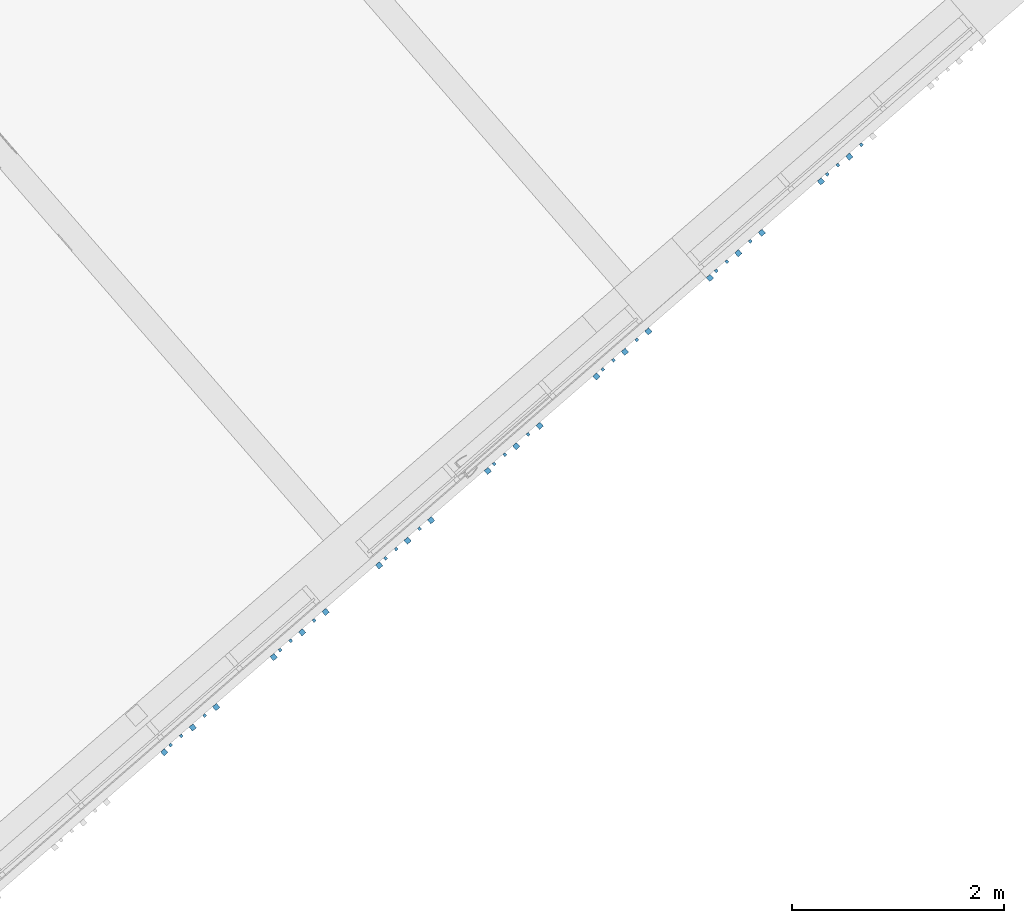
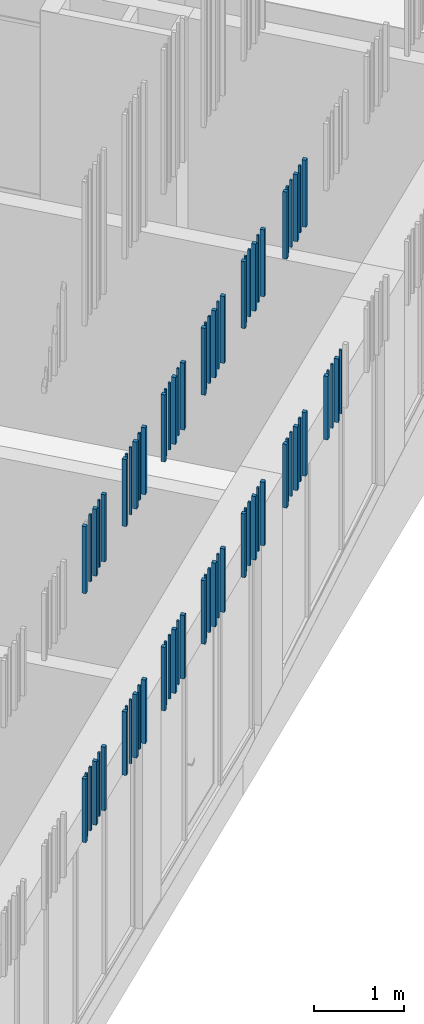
# One storey, part 97 of 124: 76 walls.
"""IFC2X3 building model written with IfcOpenShell, lengths in millimetres."""

import ifcopenshell
import ifcopenshell.guid

model = None  # the IFC model being written
_history = None  # IfcOwnerHistory: only IFC2X3 demands one
_inside = {}  # id of a spatial element -> (the spatial element, [elements in it])
_under = {}  # id of a project, library or spatial element -> (it, [spatial elements below it])
_declared = {}  # id of a project -> (the project, [libraries it declares])
_typed = {}  # id of a type object -> (the type object, [elements of that type])
_made_of = {}  # id of a material, layer set ... -> (it, [elements and type objects made of it])


def new_model(schema):
    """Start an empty IFC model of exactly this schema.

    Asked for "IFC4X3", IfcOpenShell would pick the latest addendum, in which some entities
    have other attributes; the version numbers below select the first issue.
    IFC2X3 requires an IfcOwnerHistory on every rooted entity: one is made here for all.
    """
    global model, _history
    if schema == "IFC4X3":
        model = ifcopenshell.file(schema_version=(4, 3, 0, 0))
    else:
        model = ifcopenshell.file(schema=schema)
    _inside.clear()
    _under.clear()
    _declared.clear()
    _typed.clear()
    _made_of.clear()
    _history = None
    if model.schema == "IFC2X3":
        org = make("IfcOrganization", Name="unknown")
        user = make(
            "IfcPersonAndOrganization",
            ThePerson=make("IfcPerson", FamilyName="unknown"),
            TheOrganization=org,
        )
        app = make(
            "IfcApplication",
            ApplicationDeveloper=org,
            Version="unknown",
            ApplicationFullName="unknown",
            ApplicationIdentifier="unknown",
        )
        _history = make(
            "IfcOwnerHistory",
            OwningUser=user,
            OwningApplication=app,
            ChangeAction="ADDED",
            CreationDate=0,
        )
    return model


def make(cls, **values):
    """One entity of the class cls with the attributes given. An attribute that is None is left unset."""
    return model.create_entity(
        cls, **{name: value for name, value in values.items() if value is not None}
    )


def entity(cls, *values):
    """Any entity or typed value of the class cls, its attributes in the order of the schema. None: left unset."""
    e = model.create_entity(cls)
    for i, value in enumerate(values):
        if value is not None:
            e[i] = value
    return e


def rooted(cls, **values):
    """An entity with a GlobalId (a new one), such as an element, a storey or a relation."""
    return make(cls, GlobalId=ifcopenshell.guid.new(), OwnerHistory=_history, **values)


def si_unit(unit_type, name, prefix=None):
    """IfcSIUnit, for example si_unit("LENGTHUNIT", "METRE", prefix="MILLI")."""
    return make("IfcSIUnit", UnitType=unit_type, Prefix=prefix, Name=name)


def converted_unit(unit_type, name, factor, base, dimensions=None, offset=None):
    """IfcConversionBasedUnit, such as the inch: factor (a typed value) times the base unit."""
    return make(
        "IfcConversionBasedUnit"
        if offset is None
        else "IfcConversionBasedUnitWithOffset",
        ConversionOffset=offset,
        Dimensions=None
        if dimensions is None
        else entity("IfcDimensionalExponents", *dimensions),
        UnitType=unit_type,
        Name=name,
        ConversionFactor=make(
            "IfcMeasureWithUnit", ValueComponent=factor, UnitComponent=base
        ),
    )


def derived_unit(unit_type, elements):
    """IfcDerivedUnit: a product of units, each with its exponent."""
    return make(
        "IfcDerivedUnit",
        Elements=[
            make("IfcDerivedUnitElement", Unit=unit, Exponent=power)
            for unit, power in elements
        ],
        UnitType=unit_type,
    )


def money_unit(currency):
    """IfcMonetaryUnit."""
    return make("IfcMonetaryUnit", Currency=currency)


def assignment(units):
    """IfcUnitAssignment: the units of a project."""
    return None if units is None else make("IfcUnitAssignment", Units=units)


def point(xyz):
    """IfcCartesianPoint."""
    return None if xyz is None else make("IfcCartesianPoint", Coordinates=xyz)


def direction(xyz):
    """IfcDirection."""
    return None if xyz is None else make("IfcDirection", DirectionRatios=xyz)


def frame(location, z_axis=None, x_axis=None):
    """IfcAxis2Placement3D, a coordinate frame: its origin and axes. An axis left out is left unset."""
    return make(
        "IfcAxis2Placement3D",
        Location=point(location),
        Axis=direction(z_axis),
        RefDirection=direction(x_axis),
    )


def origin_with_axes():
    """The frame at (0, 0, 0) with the z axis (0, 0, 1) and the x axis (1, 0, 0) written out."""
    return frame((0.0, 0.0, 0.0), z_axis=(0.0, 0.0, 1.0), x_axis=(1.0, 0.0, 0.0))


def place(relative_to, where):
    """IfcLocalPlacement: puts the frame where relative to a parent placement (None: the world)."""
    return make(
        "IfcLocalPlacement", PlacementRelTo=relative_to, RelativePlacement=where
    )


def context(
    kind, dimensions, precision=None, world=None, true_north=None, identifier=None
):
    """IfcGeometricRepresentationContext, for example the 3D "Model" context."""
    return make(
        "IfcGeometricRepresentationContext",
        ContextIdentifier=identifier,
        ContextType=kind,
        CoordinateSpaceDimension=dimensions,
        Precision=precision,
        WorldCoordinateSystem=world,
        TrueNorth=true_north,
    )


def subcontext(parent, identifier, kind, view, scale=None):
    """IfcGeometricRepresentationSubContext, for example "Body" below "Model"."""
    return make(
        "IfcGeometricRepresentationSubContext",
        ContextIdentifier=identifier,
        ContextType=kind,
        ParentContext=parent,
        TargetScale=scale,
        TargetView=view,
    )


def project(units=None, contexts=None):
    """IfcProject with its units and contexts."""
    return rooted(
        "IfcProject",
        Name="project",
        RepresentationContexts=contexts,
        UnitsInContext=assignment(units),
    )


def spatial(cls, under=None, at=None, **own):
    """A site, building, storey or space (cls), placed at a placement, below another one or the project."""
    s = rooted(cls, ObjectPlacement=at, **own)
    if under is not None:
        _under.setdefault(under.id(), (under, []))[1].append(s)
    return s


def faces_of(points, faces, orient=None, outer=None):
    """IfcFace entities. A face is a list of loops; a loop is a list of indices into points, from 0.

    orient and outer hold one flag for each loop. By default every Orientation is true, the
    first loop of a face is its IfcFaceOuterBound and the others are IfcFaceBound.
    """
    made = []
    for i, loops in enumerate(faces):
        bounds = []
        for j, loop in enumerate(loops):
            is_outer = j == 0 if outer is None else outer[i][j]
            bounds.append(
                make(
                    "IfcFaceOuterBound" if is_outer else "IfcFaceBound",
                    Bound=make("IfcPolyLoop", Polygon=[points[k] for k in loop]),
                    Orientation=True if orient is None else orient[i][j],
                )
            )
        made.append(make("IfcFace", Bounds=bounds))
    return made


def faceted_brep(points, faces, orient=None, outer=None, voids=None):
    """IfcFacetedBrep: a solid bounded by flat faces; with voids (closed shells), ...WithVoids."""
    shared = [point(p) for p in points]
    hull = make("IfcClosedShell", CfsFaces=faces_of(shared, faces, orient, outer))
    if voids is None:
        return make("IfcFacetedBrep", Outer=hull)
    return make(
        "IfcFacetedBrepWithVoids",
        Outer=hull,
        Voids=[
            make(cls, CfsFaces=faces_of(shared, fs, o, b)) for cls, fs, o, b in voids
        ],
    )


def shape(context_of_items, identifier, shape_type, items):
    """IfcShapeRepresentation: the items that make up one representation, for example the "Body"."""
    return make(
        "IfcShapeRepresentation",
        ContextOfItems=context_of_items,
        RepresentationIdentifier=identifier,
        RepresentationType=shape_type,
        Items=items,
    )


def material(Name=None, Category=None):
    """IfcMaterial."""
    return make("IfcMaterial", Name=Name, Category=Category)


def made_of(thing, what):
    """Note that an element or type object is made of a material, layer set ...; save() writes the relation."""
    if what is not None:
        _made_of.setdefault(what.id(), (what, []))[1].append(thing)
    return thing


def type_object(cls, material=None, **own):
    """A type object (cls), such as IfcWallType, which elements share."""
    return made_of(rooted(cls, **own), material)


def element(
    cls,
    number,
    at=None,
    inside=None,
    cuts=None,
    type_object=None,
    material=None,
    context=None,
    identifier="Body",
    shape_type=None,
    held_by="IfcProductDefinitionShape",
    body=None,
    shapes=None,
    **own,
):
    """One element of the class cls, such as IfcWall. Its Tag is "e" and its number.

    at: its placement. inside: the storey or other place that contains it. cuts: it is an
    opening in that element (IfcRelVoidsElement). A single representation is given by context,
    identifier, shape_type and body (its items); several are given by shapes. held_by: the class
    of the entity that holds the representations. save() writes the other relations.
    """
    e = rooted(cls, Tag="e%d" % number, ObjectPlacement=at, **own)
    if body is not None:
        shapes = [shape(context, identifier, shape_type, body)]
    if shapes is not None:
        e.Representation = make(held_by, Representations=shapes)
    if inside is not None:
        _inside.setdefault(inside.id(), (inside, []))[1].append(e)
    if cuts is not None:
        rooted(
            "IfcRelVoidsElement", RelatingBuildingElement=cuts, RelatedOpeningElement=e
        )
    if type_object is not None:
        _typed.setdefault(type_object.id(), (type_object, []))[1].append(e)
    return made_of(e, material)


def aggregate(whole, parts):
    """IfcRelAggregates: a whole, such as a stair, and the parts it consists of."""
    return rooted("IfcRelAggregates", RelatingObject=whole, RelatedObjects=parts)


def save(model, path):
    """Write the relations noted so far, then the file.

    IfcRelAggregates (storeys below a building ...), IfcRelContainedInSpatialStructure (elements
    in a storey), IfcRelDefinesByType, IfcRelAssociatesMaterial and IfcRelDeclares: one each for
    every whole, place, type object, material and project.
    """
    for whole, parts in _under.values():
        aggregate(whole, parts)
    for where, things in _inside.values():
        rooted(
            "IfcRelContainedInSpatialStructure",
            RelatedElements=things,
            RelatingStructure=where,
        )
    for kind, things in _typed.values():
        rooted("IfcRelDefinesByType", RelatedObjects=things, RelatingType=kind)
    for what, things in _made_of.values():
        rooted("IfcRelAssociatesMaterial", RelatedObjects=things, RelatingMaterial=what)
    for by, libraries in _declared.values():
        rooted("IfcRelDeclares", RelatingContext=by, RelatedDefinitions=libraries)
    model.write(path)


model = new_model("IFC2X3")

# Units and contexts
model_context = context("Model", 3, precision=1e-05, world=origin_with_axes(), true_north=direction((0.0, 1.0)))
body_context = subcontext(model_context, "Body", "Model", "MODEL_VIEW")
ifc_project = project(units=[si_unit("LENGTHUNIT", "METRE", prefix="MILLI"), si_unit("AREAUNIT", "SQUARE_METRE"), si_unit("VOLUMEUNIT", "CUBIC_METRE"), converted_unit("PLANEANGLEUNIT", "DEGREE", entity("IfcPlaneAngleMeasure", 0.0174532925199), si_unit("PLANEANGLEUNIT", "RADIAN"), dimensions=[0, 0, 0, 0, 0, 0, 0]), si_unit("SOLIDANGLEUNIT", "STERADIAN"), money_unit("EUR"), converted_unit("TIMEUNIT", "Year", entity("IfcTimeMeasure", 31556926.0), si_unit("TIMEUNIT", "SECOND"), dimensions=[0, 0, 1, 0, 0, 0, 0]), si_unit("MASSUNIT", "GRAM", prefix="KILO"), si_unit("THERMODYNAMICTEMPERATUREUNIT", "DEGREE_CELSIUS"), si_unit("LUMINOUSINTENSITYUNIT", "LUMEN"), si_unit("ENERGYUNIT", "JOULE", prefix="MEGA"), derived_unit("THERMALCONDUCTANCEUNIT", [(si_unit("POWERUNIT", "WATT"), 1), (si_unit("LENGTHUNIT", "METRE"), -1), (si_unit("THERMODYNAMICTEMPERATUREUNIT", "KELVIN"), -1)]), derived_unit("SPECIFICHEATCAPACITYUNIT", [(si_unit("ENERGYUNIT", "JOULE"), 1), (si_unit("MASSUNIT", "GRAM", prefix="KILO"), -1), (si_unit("THERMODYNAMICTEMPERATUREUNIT", "KELVIN"), -1)]), derived_unit("MASSDENSITYUNIT", [(si_unit("MASSUNIT", "GRAM", prefix="KILO"), 1), (si_unit("VOLUMEUNIT", "CUBIC_METRE"), -1)])], contexts=[model_context])

# Site, building, storey
site_placement = place(None, origin_with_axes())
site = spatial("IfcSite", under=ifc_project, at=site_placement, Name="Site", CompositionType="ELEMENT")
building_placement = place(site_placement, origin_with_axes())
building = spatial("IfcBuilding", under=site, at=building_placement, Name="Building", CompositionType="ELEMENT")
storey_placement = place(building_placement, frame((0.0, 0.0, -1615.0), z_axis=(0.0, 0.0, 1.0), x_axis=(1.0, 0.0, 0.0)))
storey = spatial("IfcBuildingStorey", under=building, at=storey_placement, Name="0  korrus", CompositionType="ELEMENT", Elevation=-1615.0)

# Walls
ifc_material = material(Name="Site specified")
wall_type = type_object("IfcWallType", Name="Puitfassaadi ribistik", PredefinedType="NOTDEFINED")
for number, where, z_axis, x_axis, name in (
    (1, (165747.233725, 88727.0639054, 5915.0), (0.0, 0.0, 1.0), (-0.754709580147, -0.656059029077, 0.0), "Site specified"),
    (2, (165425.727466, 88447.5827786, 5915.0), (0.0, 0.0, 1.0), (-0.754709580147, -0.656059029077, 0.0), "Site specified"),
    (3, (165526.10384, 88534.8386289, 5915.0), (0.0, 0.0, 1.0), (-0.754709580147, -0.656059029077, 0.0), "Site specified"),
):
    element("IfcWall", number, at=place(storey_placement, frame(where, z_axis=z_axis, x_axis=x_axis)), inside=storey, type_object=wall_type, material=ifc_material, Name=name, context=body_context, shape_type="Brep", body=[
        faceted_brep([(14.0, 14.0, 906.0), (14.0, 14.0, 0.0), (-14.0, 14.0, 0.0), (-14.0, 14.0, 906.0), (14.0, -14.0, 906.0), (14.0, -14.0, 0.0), (-14.0, -14.0, 0.0), (-14.0, -14.0, 906.0)], [[[0, 1, 2, 3]], [[4, 5, 1, 0]], [[2, 1, 5, 6]], [[3, 2, 6, 7]], [[4, 0, 3, 7]], [[7, 6, 5, 4]]]),
    ])
for number, where, z_axis, x_axis, name in (
    (4, (165365.77257, 88380.8896396, 5915.0), (0.0, 0.0, 1.0), (-0.754709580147, -0.656059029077, 0.0), "Site specified"),
    (5, (165634.453432, 88614.4503497, 5915.0), (0.0, 0.0, 1.0), (-0.754709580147, -0.656059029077, 0.0), "Site specified"),
    (6, (165856.338047, 88807.3317028, 5915.0), (0.0, 0.0, 1.0), (-0.754709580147, -0.656059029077, 0.0), "Site specified"),
):
    element("IfcWall", number, at=place(storey_placement, frame(where, z_axis=z_axis, x_axis=x_axis)), inside=storey, type_object=wall_type, material=ifc_material, Name=name, context=body_context, shape_type="Brep", body=[
        faceted_brep([(25.0, 25.0, 906.0), (25.0, 25.0, 0.0), (-25.0, 25.0, 0.0), (-25.0, 25.0, 906.0), (25.0, -25.0, 906.0), (25.0, -25.0, 0.0), (-25.0, -25.0, 0.0), (-25.0, -25.0, 906.0)], [[[0, 1, 2, 3]], [[4, 5, 1, 0]], [[2, 1, 5, 6]], [[3, 2, 6, 7]], [[4, 0, 3, 7]], [[7, 6, 5, 4]]]),
    ])
for number, where, z_axis, x_axis, name in (
    (7, (164499.712794, 87642.6105067, 5915.0), (0.0, 0.0, 1.0), (-0.754709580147, -0.656059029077, 0.0), "Site specified"),
    (8, (164720.84268, 87834.8357833, 5915.0), (0.0, 0.0, 1.0), (-0.754709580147, -0.656059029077, 0.0), "Site specified"),
    (9, (164399.336421, 87555.3546564, 5915.0), (0.0, 0.0, 1.0), (-0.754709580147, -0.656059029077, 0.0), "Site specified"),
):
    element("IfcWall", number, at=place(storey_placement, frame(where, z_axis=z_axis, x_axis=x_axis)), inside=storey, type_object=wall_type, material=ifc_material, Name=name, context=body_context, shape_type="Brep", body=[
        faceted_brep([(14.0, 14.0, 906.0), (14.0, 14.0, 0.0), (-14.0, 14.0, 0.0), (-14.0, 14.0, 906.0), (14.0, -14.0, 906.0), (14.0, -14.0, 0.0), (-14.0, -14.0, 0.0), (-14.0, -14.0, 906.0)], [[[0, 1, 2, 3]], [[4, 5, 1, 0]], [[2, 1, 5, 6]], [[3, 2, 6, 7]], [[4, 0, 3, 7]], [[7, 6, 5, 4]]]),
    ])
for number, where, z_axis, x_axis, name in (
    (10, (164829.947002, 87915.1035807, 5915.0), (0.0, 0.0, 1.0), (-0.754709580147, -0.656059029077, 0.0), "Site specified"),
    (11, (164339.381525, 87488.6615175, 5915.0), (0.0, 0.0, 1.0), (-0.754709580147, -0.656059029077, 0.0), "Site specified"),
    (12, (164608.062387, 87722.2222276, 5915.0), (0.0, 0.0, 1.0), (-0.754709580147, -0.656059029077, 0.0), "Site specified"),
):
    element("IfcWall", number, at=place(storey_placement, frame(where, z_axis=z_axis, x_axis=x_axis)), inside=storey, type_object=wall_type, material=ifc_material, Name=name, context=body_context, shape_type="Brep", body=[
        faceted_brep([(25.0, 25.0, 906.0), (25.0, 25.0, 0.0), (-25.0, 25.0, 0.0), (-25.0, 25.0, 906.0), (25.0, -25.0, 906.0), (25.0, -25.0, 0.0), (-25.0, -25.0, 0.0), (-25.0, -25.0, 906.0)], [[[0, 1, 2, 3]], [[4, 5, 1, 0]], [[2, 1, 5, 6]], [[3, 2, 6, 7]], [[4, 0, 3, 7]], [[7, 6, 5, 4]]]),
    ])
wall_1_placement = place(storey_placement, frame((163803.541973, 87022.8633013, 2550.0), z_axis=(0.0, 0.0, 1.0), x_axis=(-0.754709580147, -0.656059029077, 0.0)))
element("IfcWall", 13, at=wall_1_placement, inside=storey, type_object=wall_type, material=ifc_material, Name="Site specified", context=body_context, shape_type="Brep", body=[
    faceted_brep([(25.0, 25.0, 860.000018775), (25.0, 25.0, 0.0), (-25.0, 25.0, 0.0), (-25.0, 25.0, 860.000018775), (25.0, -25.0, 860.000018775), (25.0, -25.0, 0.0), (-25.0, -25.0, 0.0), (-25.0, -25.0, 860.000018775)], [[[0, 1, 2, 3]], [[4, 5, 1, 0]], [[2, 1, 5, 6]], [[3, 2, 6, 7]], [[4, 0, 3, 7]], [[7, 6, 5, 4]]]),
])
for number, where, z_axis, x_axis, name in (
    (14, (163694.437651, 86942.5955039, 2550.0), (0.0, 0.0, 1.0), (-0.754709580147, -0.656059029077, 0.0), "Site specified"),
    (15, (163372.931392, 86663.114377, 2550.0), (0.0, 0.0, 1.0), (-0.754709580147, -0.656059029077, 0.0), "Site specified"),
    (16, (163473.307765, 86750.3702273, 2550.0), (0.0, 0.0, 1.0), (-0.754709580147, -0.656059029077, 0.0), "Site specified"),
):
    element("IfcWall", number, at=place(storey_placement, frame(where, z_axis=z_axis, x_axis=x_axis)), inside=storey, type_object=wall_type, material=ifc_material, Name=name, context=body_context, shape_type="Brep", body=[
        faceted_brep([(14.0, 14.0, 860.000018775), (14.0, 14.0, 0.0), (-14.0, 14.0, 0.0), (-14.0, 14.0, 860.000018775), (14.0, -14.0, 860.000018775), (14.0, -14.0, 0.0), (-14.0, -14.0, 0.0), (-14.0, -14.0, 860.000018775)], [[[0, 1, 2, 3]], [[4, 5, 1, 0]], [[2, 1, 5, 6]], [[3, 2, 6, 7]], [[4, 0, 3, 7]], [[7, 6, 5, 4]]]),
    ])
for number, where, z_axis, x_axis, name in (
    (17, (163312.976496, 86596.4212381, 2550.0), (0.0, 0.0, 1.0), (-0.754709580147, -0.656059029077, 0.0), "Site specified"),
    (18, (163581.657358, 86829.9819482, 2550.0), (0.0, 0.0, 1.0), (-0.754709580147, -0.656059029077, 0.0), "Site specified"),
    (19, (164829.947002, 87915.1035807, 2550.0), (0.0, 0.0, 1.0), (-0.754709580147, -0.656059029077, 0.0), "Site specified"),
):
    element("IfcWall", number, at=place(storey_placement, frame(where, z_axis=z_axis, x_axis=x_axis)), inside=storey, type_object=wall_type, material=ifc_material, Name=name, context=body_context, shape_type="Brep", body=[
        faceted_brep([(25.0, 25.0, 860.000018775), (25.0, 25.0, 0.0), (-25.0, 25.0, 0.0), (-25.0, 25.0, 860.000018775), (25.0, -25.0, 860.000018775), (25.0, -25.0, 0.0), (-25.0, -25.0, 0.0), (-25.0, -25.0, 860.000018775)], [[[0, 1, 2, 3]], [[4, 5, 1, 0]], [[2, 1, 5, 6]], [[3, 2, 6, 7]], [[4, 0, 3, 7]], [[7, 6, 5, 4]]]),
    ])
for number, where, z_axis, x_axis, name in (
    (20, (164720.84268, 87834.8357833, 2550.0), (0.0, 0.0, 1.0), (-0.754709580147, -0.656059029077, 0.0), "Site specified"),
    (21, (164499.712794, 87642.6105067, 2550.0), (0.0, 0.0, 1.0), (-0.754709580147, -0.656059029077, 0.0), "Site specified"),
    (22, (164399.336421, 87555.3546564, 2550.0), (0.0, 0.0, 1.0), (-0.754709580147, -0.656059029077, 0.0), "Site specified"),
):
    element("IfcWall", number, at=place(storey_placement, frame(where, z_axis=z_axis, x_axis=x_axis)), inside=storey, type_object=wall_type, material=ifc_material, Name=name, context=body_context, shape_type="Brep", body=[
        faceted_brep([(14.0, 14.0, 860.000018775), (14.0, 14.0, 0.0), (-14.0, 14.0, 0.0), (-14.0, 14.0, 860.000018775), (14.0, -14.0, 860.000018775), (14.0, -14.0, 0.0), (-14.0, -14.0, 0.0), (-14.0, -14.0, 860.000018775)], [[[0, 1, 2, 3]], [[4, 5, 1, 0]], [[2, 1, 5, 6]], [[3, 2, 6, 7]], [[4, 0, 3, 7]], [[7, 6, 5, 4]]]),
    ])
for number, where, z_axis, x_axis, name in (
    (23, (164339.381525, 87488.6615175, 2550.0), (0.0, 0.0, 1.0), (-0.754709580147, -0.656059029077, 0.0), "Site specified"),
    (24, (164608.062387, 87722.2222276, 2550.0), (0.0, 0.0, 1.0), (-0.754709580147, -0.656059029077, 0.0), "Site specified"),
    (25, (165856.338047, 88807.3317028, 2550.0), (0.0, 0.0, 1.0), (-0.754709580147, -0.656059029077, 0.0), "Site specified"),
):
    element("IfcWall", number, at=place(storey_placement, frame(where, z_axis=z_axis, x_axis=x_axis)), inside=storey, type_object=wall_type, material=ifc_material, Name=name, context=body_context, shape_type="Brep", body=[
        faceted_brep([(25.0, 25.0, 860.000018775), (25.0, 25.0, 0.0), (-25.0, 25.0, 0.0), (-25.0, 25.0, 860.000018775), (25.0, -25.0, 860.000018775), (25.0, -25.0, 0.0), (-25.0, -25.0, 0.0), (-25.0, -25.0, 860.000018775)], [[[0, 1, 2, 3]], [[4, 5, 1, 0]], [[2, 1, 5, 6]], [[3, 2, 6, 7]], [[4, 0, 3, 7]], [[7, 6, 5, 4]]]),
    ])
for number, where, z_axis, x_axis, name in (
    (26, (165425.727466, 88447.5827786, 2550.0), (0.0, 0.0, 1.0), (-0.754709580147, -0.656059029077, 0.0), "Site specified"),
    (27, (165747.233725, 88727.0639054, 2550.0), (0.0, 0.0, 1.0), (-0.754709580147, -0.656059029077, 0.0), "Site specified"),
    (28, (165526.10384, 88534.8386289, 2550.0), (0.0, 0.0, 1.0), (-0.754709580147, -0.656059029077, 0.0), "Site specified"),
):
    element("IfcWall", number, at=place(storey_placement, frame(where, z_axis=z_axis, x_axis=x_axis)), inside=storey, type_object=wall_type, material=ifc_material, Name=name, context=body_context, shape_type="Brep", body=[
        faceted_brep([(14.0, 14.0, 860.000018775), (14.0, 14.0, 0.0), (-14.0, 14.0, 0.0), (-14.0, 14.0, 860.000018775), (14.0, -14.0, 860.000018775), (14.0, -14.0, 0.0), (-14.0, -14.0, 0.0), (-14.0, -14.0, 860.000018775)], [[[0, 1, 2, 3]], [[4, 5, 1, 0]], [[2, 1, 5, 6]], [[3, 2, 6, 7]], [[4, 0, 3, 7]], [[7, 6, 5, 4]]]),
    ])
for number, where, z_axis, x_axis, name in (
    (29, (165365.77257, 88380.8896396, 2550.0), (0.0, 0.0, 1.0), (-0.754709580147, -0.656059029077, 0.0), "Site specified"),
    (30, (165634.453432, 88614.4503497, 2550.0), (0.0, 0.0, 1.0), (-0.754709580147, -0.656059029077, 0.0), "Site specified"),
):
    element("IfcWall", number, at=place(storey_placement, frame(where, z_axis=z_axis, x_axis=x_axis)), inside=storey, type_object=wall_type, material=ifc_material, Name=name, context=body_context, shape_type="Brep", body=[
        faceted_brep([(25.0, 25.0, 860.000018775), (25.0, 25.0, 0.0), (-25.0, 25.0, 0.0), (-25.0, 25.0, 860.000018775), (25.0, -25.0, 860.000018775), (25.0, -25.0, 0.0), (-25.0, -25.0, 0.0), (-25.0, -25.0, 860.000018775)], [[[0, 1, 2, 3]], [[4, 5, 1, 0]], [[2, 1, 5, 6]], [[3, 2, 6, 7]], [[4, 0, 3, 7]], [[7, 6, 5, 4]]]),
    ])
wall_2_placement = place(storey_placement, frame((163803.541973, 87022.8633013, 5915.0), z_axis=(0.0, 0.0, 1.0), x_axis=(-0.754709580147, -0.656059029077, 0.0)))
element("IfcWall", 31, at=wall_2_placement, inside=storey, type_object=wall_type, material=ifc_material, Name="Site specified", context=body_context, shape_type="Brep", body=[
    faceted_brep([(25.0, 25.0, 906.0), (25.0, 25.0, 0.0), (-25.0, 25.0, 0.0), (-25.0, 25.0, 906.0), (25.0, -25.0, 906.0), (25.0, -25.0, 0.0), (-25.0, -25.0, 0.0), (-25.0, -25.0, 906.0)], [[[0, 1, 2, 3]], [[4, 5, 1, 0]], [[2, 1, 5, 6]], [[3, 2, 6, 7]], [[4, 0, 3, 7]], [[7, 6, 5, 4]]]),
])
for number, where, z_axis, x_axis, name in (
    (32, (163372.931392, 86663.114377, 5915.0), (0.0, 0.0, 1.0), (-0.754709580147, -0.656059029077, 0.0), "Site specified"),
    (33, (163694.437651, 86942.5955039, 5915.0), (0.0, 0.0, 1.0), (-0.754709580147, -0.656059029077, 0.0), "Site specified"),
    (34, (163473.307765, 86750.3702273, 5915.0), (0.0, 0.0, 1.0), (-0.754709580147, -0.656059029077, 0.0), "Site specified"),
):
    element("IfcWall", number, at=place(storey_placement, frame(where, z_axis=z_axis, x_axis=x_axis)), inside=storey, type_object=wall_type, material=ifc_material, Name=name, context=body_context, shape_type="Brep", body=[
        faceted_brep([(14.0, 14.0, 906.0), (14.0, 14.0, 0.0), (-14.0, 14.0, 0.0), (-14.0, 14.0, 906.0), (14.0, -14.0, 906.0), (14.0, -14.0, 0.0), (-14.0, -14.0, 0.0), (-14.0, -14.0, 906.0)], [[[0, 1, 2, 3]], [[4, 5, 1, 0]], [[2, 1, 5, 6]], [[3, 2, 6, 7]], [[4, 0, 3, 7]], [[7, 6, 5, 4]]]),
    ])
for number, where, z_axis, x_axis, name in (
    (35, (163312.976496, 86596.4212381, 5915.0), (0.0, 0.0, 1.0), (-0.754709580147, -0.656059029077, 0.0), "Site specified"),
    (36, (163581.657358, 86829.9819482, 5915.0), (0.0, 0.0, 1.0), (-0.754709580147, -0.656059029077, 0.0), "Site specified"),
    (37, (162316.745415, 85730.4107697, 5915.0), (0.0, 0.0, 1.0), (-0.754709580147, -0.656059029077, 0.0), "Site specified"),
):
    element("IfcWall", number, at=place(storey_placement, frame(where, z_axis=z_axis, x_axis=x_axis)), inside=storey, type_object=wall_type, material=ifc_material, Name=name, context=body_context, shape_type="Brep", body=[
        faceted_brep([(25.0, 25.0, 906.0), (25.0, 25.0, 0.0), (-25.0, 25.0, 0.0), (-25.0, 25.0, 906.0), (25.0, -25.0, 906.0), (25.0, -25.0, 0.0), (-25.0, -25.0, 0.0), (-25.0, -25.0, 906.0)], [[[0, 1, 2, 3]], [[4, 5, 1, 0]], [[2, 1, 5, 6]], [[3, 2, 6, 7]], [[4, 0, 3, 7]], [[7, 6, 5, 4]]]),
    ])
wall_3_placement = place(storey_placement, frame((162477.076684, 85884.359759, 5915.0), z_axis=(0.0, 0.0, 1.0), x_axis=(-0.754709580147, -0.656059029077, 0.0)))
element("IfcWall", 38, at=wall_3_placement, inside=storey, type_object=wall_type, material=ifc_material, Name="Site specified", context=body_context, shape_type="Brep", body=[
    faceted_brep([(14.0, 14.0, 906.0), (14.0, 14.0, 0.0), (-14.0, 14.0, 0.0), (-14.0, 14.0, 906.0), (14.0, -14.0, 906.0), (14.0, -14.0, 0.0), (-14.0, -14.0, 0.0), (-14.0, -14.0, 906.0)], [[[0, 1, 2, 3]], [[4, 5, 1, 0]], [[2, 1, 5, 6]], [[3, 2, 6, 7]], [[4, 0, 3, 7]], [[7, 6, 5, 4]]]),
])
for number, where, z_axis, x_axis, name in (
    (39, (162585.426277, 85963.9714798, 5915.0), (0.0, 0.0, 1.0), (-0.754709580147, -0.656059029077, 0.0), "Site specified"),
    (40, (162807.310892, 86156.8528329, 5915.0), (0.0, 0.0, 1.0), (-0.754709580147, -0.656059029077, 0.0), "Site specified"),
):
    element("IfcWall", number, at=place(storey_placement, frame(where, z_axis=z_axis, x_axis=x_axis)), inside=storey, type_object=wall_type, material=ifc_material, Name=name, context=body_context, shape_type="Brep", body=[
        faceted_brep([(25.0, 25.0, 906.0), (25.0, 25.0, 0.0), (-25.0, 25.0, 0.0), (-25.0, 25.0, 906.0), (25.0, -25.0, 906.0), (25.0, -25.0, 0.0), (-25.0, -25.0, 0.0), (-25.0, -25.0, 906.0)], [[[0, 1, 2, 3]], [[4, 5, 1, 0]], [[2, 1, 5, 6]], [[3, 2, 6, 7]], [[4, 0, 3, 7]], [[7, 6, 5, 4]]]),
    ])
for number, where, z_axis, x_axis, name in (
    (41, (162698.20657, 86076.5850355, 5915.0), (0.0, 0.0, 1.0), (-0.754709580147, -0.656059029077, 0.0), "Site specified"),
    (42, (162376.700311, 85797.1039087, 5915.0), (0.0, 0.0, 1.0), (-0.754709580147, -0.656059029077, 0.0), "Site specified"),
):
    element("IfcWall", number, at=place(storey_placement, frame(where, z_axis=z_axis, x_axis=x_axis)), inside=storey, type_object=wall_type, material=ifc_material, Name=name, context=body_context, shape_type="Brep", body=[
        faceted_brep([(14.0, 14.0, 906.0), (14.0, 14.0, 0.0), (-14.0, 14.0, 0.0), (-14.0, 14.0, 906.0), (14.0, -14.0, 906.0), (14.0, -14.0, 0.0), (-14.0, -14.0, 0.0), (-14.0, -14.0, 906.0)], [[[0, 1, 2, 3]], [[4, 5, 1, 0]], [[2, 1, 5, 6]], [[3, 2, 6, 7]], [[4, 0, 3, 7]], [[7, 6, 5, 4]]]),
    ])
wall_4_placement = place(storey_placement, frame((162807.310892, 86156.8528329, 2550.00001878), z_axis=(0.0, 0.0, 1.0), x_axis=(-0.754709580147, -0.656059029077, 0.0)))
element("IfcWall", 43, at=wall_4_placement, inside=storey, type_object=wall_type, material=ifc_material, Name="Site specified", context=body_context, shape_type="Brep", body=[
    faceted_brep([(25.0, 25.0, 860.0), (25.0, 25.0, 0.0), (-25.0, 25.0, 0.0), (-25.0, 25.0, 860.0), (25.0, -25.0, 860.0), (25.0, -25.0, 0.0), (-25.0, -25.0, 0.0), (-25.0, -25.0, 860.0)], [[[0, 1, 2, 3]], [[4, 5, 1, 0]], [[2, 1, 5, 6]], [[3, 2, 6, 7]], [[4, 0, 3, 7]], [[7, 6, 5, 4]]]),
])
wall_5_placement = place(storey_placement, frame((162698.20657, 86076.5850355, 2550.00001878), z_axis=(0.0, 0.0, 1.0), x_axis=(-0.754709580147, -0.656059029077, 0.0)))
element("IfcWall", 44, at=wall_5_placement, inside=storey, type_object=wall_type, material=ifc_material, Name="Site specified", context=body_context, shape_type="Brep", body=[
    faceted_brep([(14.0, 14.0, 860.0), (14.0, 14.0, 0.0), (-14.0, 14.0, 0.0), (-14.0, 14.0, 860.0), (14.0, -14.0, 860.0), (14.0, -14.0, 0.0), (-14.0, -14.0, 0.0), (-14.0, -14.0, 860.0)], [[[0, 1, 2, 3]], [[4, 5, 1, 0]], [[2, 1, 5, 6]], [[3, 2, 6, 7]], [[4, 0, 3, 7]], [[7, 6, 5, 4]]]),
])
wall_6_placement = place(storey_placement, frame((162316.745415, 85730.4107697, 2550.00001878), z_axis=(0.0, 0.0, 1.0), x_axis=(-0.754709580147, -0.656059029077, 0.0)))
element("IfcWall", 45, at=wall_6_placement, inside=storey, type_object=wall_type, material=ifc_material, Name="Site specified", context=body_context, shape_type="Brep", body=[
    faceted_brep([(25.0, 25.0, 860.0), (25.0, 25.0, 0.0), (-25.0, 25.0, 0.0), (-25.0, 25.0, 860.0), (25.0, -25.0, 860.0), (25.0, -25.0, 0.0), (-25.0, -25.0, 0.0), (-25.0, -25.0, 860.0)], [[[0, 1, 2, 3]], [[4, 5, 1, 0]], [[2, 1, 5, 6]], [[3, 2, 6, 7]], [[4, 0, 3, 7]], [[7, 6, 5, 4]]]),
])
for number, where, z_axis, x_axis, name in (
    (46, (162376.700311, 85797.1039087, 2550.00001878), (0.0, 0.0, 1.0), (-0.754709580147, -0.656059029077, 0.0), "Site specified"),
    (47, (162477.076684, 85884.359759, 2550.00001878), (0.0, 0.0, 1.0), (-0.754709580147, -0.656059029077, 0.0), "Site specified"),
):
    element("IfcWall", number, at=place(storey_placement, frame(where, z_axis=z_axis, x_axis=x_axis)), inside=storey, type_object=wall_type, material=ifc_material, Name=name, context=body_context, shape_type="Brep", body=[
        faceted_brep([(14.0, 14.0, 860.0), (14.0, 14.0, 0.0), (-14.0, 14.0, 0.0), (-14.0, 14.0, 860.0), (14.0, -14.0, 860.0), (14.0, -14.0, 0.0), (-14.0, -14.0, 0.0), (-14.0, -14.0, 860.0)], [[[0, 1, 2, 3]], [[4, 5, 1, 0]], [[2, 1, 5, 6]], [[3, 2, 6, 7]], [[4, 0, 3, 7]], [[7, 6, 5, 4]]]),
    ])
wall_7_placement = place(storey_placement, frame((162585.426277, 85963.9714798, 2550.00001878), z_axis=(0.0, 0.0, 1.0), x_axis=(-0.754709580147, -0.656059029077, 0.0)))
element("IfcWall", 48, at=wall_7_placement, inside=storey, type_object=wall_type, material=ifc_material, Name="Site specified", context=body_context, shape_type="Brep", body=[
    faceted_brep([(25.0, 25.0, 860.0), (25.0, 25.0, 0.0), (-25.0, 25.0, 0.0), (-25.0, 25.0, 860.0), (25.0, -25.0, 860.0), (25.0, -25.0, 0.0), (-25.0, -25.0, 0.0), (-25.0, -25.0, 860.0)], [[[0, 1, 2, 3]], [[4, 5, 1, 0]], [[2, 1, 5, 6]], [[3, 2, 6, 7]], [[4, 0, 3, 7]], [[7, 6, 5, 4]]]),
])
wall_8_placement = place(storey_placement, frame((166818.921572, 89658.6679382, 2550.00001878), z_axis=(0.0, 0.0, 1.0), x_axis=(-0.754709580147, -0.656059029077, 0.0)))
element("IfcWall", 49, at=wall_8_placement, inside=storey, type_object=wall_type, material=ifc_material, Name="Site specified", context=body_context, shape_type="Brep", body=[
    faceted_brep([(14.0, 14.0, 860.0), (14.0, 14.0, 0.0), (-14.0, 14.0, 0.0), (-14.0, 14.0, 860.0), (14.0, -14.0, 860.0), (14.0, -14.0, 0.0), (-14.0, -14.0, 0.0), (-14.0, -14.0, 860.0)], [[[0, 1, 2, 3]], [[4, 5, 1, 0]], [[2, 1, 5, 6]], [[3, 2, 6, 7]], [[4, 0, 3, 7]], [[7, 6, 5, 4]]]),
])
wall_9_placement = place(storey_placement, frame((166928.025894, 89738.9357356, 2550.00001878), z_axis=(0.0, 0.0, 1.0), x_axis=(-0.754709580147, -0.656059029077, 0.0)))
element("IfcWall", 50, at=wall_9_placement, inside=storey, type_object=wall_type, material=ifc_material, Name="Site specified", context=body_context, shape_type="Brep", body=[
    faceted_brep([(25.0, 25.0, 860.0), (25.0, 25.0, 0.0), (-25.0, 25.0, 0.0), (-25.0, 25.0, 860.0), (25.0, -25.0, 860.0), (25.0, -25.0, 0.0), (-25.0, -25.0, 0.0), (-25.0, -25.0, 860.0)], [[[0, 1, 2, 3]], [[4, 5, 1, 0]], [[2, 1, 5, 6]], [[3, 2, 6, 7]], [[4, 0, 3, 7]], [[7, 6, 5, 4]]]),
])
for number, where, z_axis, x_axis, name in (
    (51, (166497.415313, 89379.1868113, 2550.00001878), (0.0, 0.0, 1.0), (-0.754709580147, -0.656059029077, 0.0), "Site specified"),
    (52, (166597.791687, 89466.4426616, 2550.00001878), (0.0, 0.0, 1.0), (-0.754709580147, -0.656059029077, 0.0), "Site specified"),
):
    element("IfcWall", number, at=place(storey_placement, frame(where, z_axis=z_axis, x_axis=x_axis)), inside=storey, type_object=wall_type, material=ifc_material, Name=name, context=body_context, shape_type="Brep", body=[
        faceted_brep([(14.0, 14.0, 860.0), (14.0, 14.0, 0.0), (-14.0, 14.0, 0.0), (-14.0, 14.0, 860.0), (14.0, -14.0, 860.0), (14.0, -14.0, 0.0), (-14.0, -14.0, 0.0), (-14.0, -14.0, 860.0)], [[[0, 1, 2, 3]], [[4, 5, 1, 0]], [[2, 1, 5, 6]], [[3, 2, 6, 7]], [[4, 0, 3, 7]], [[7, 6, 5, 4]]]),
    ])
for number, where, z_axis, x_axis, name in (
    (53, (166437.460417, 89312.4936724, 2550.00001878), (0.0, 0.0, 1.0), (-0.754709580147, -0.656059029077, 0.0), "Site specified"),
    (54, (166706.141279, 89546.0543825, 2550.00001878), (0.0, 0.0, 1.0), (-0.754709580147, -0.656059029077, 0.0), "Site specified"),
):
    element("IfcWall", number, at=place(storey_placement, frame(where, z_axis=z_axis, x_axis=x_axis)), inside=storey, type_object=wall_type, material=ifc_material, Name=name, context=body_context, shape_type="Brep", body=[
        faceted_brep([(25.0, 25.0, 860.0), (25.0, 25.0, 0.0), (-25.0, 25.0, 0.0), (-25.0, 25.0, 860.0), (25.0, -25.0, 860.0), (25.0, -25.0, 0.0), (-25.0, -25.0, 0.0), (-25.0, -25.0, 860.0)], [[[0, 1, 2, 3]], [[4, 5, 1, 0]], [[2, 1, 5, 6]], [[3, 2, 6, 7]], [[4, 0, 3, 7]], [[7, 6, 5, 4]]]),
    ])
for number, where, z_axis, x_axis, name in (
    (55, (166928.025894, 89738.9357356, 5915.0), (0.0, 0.0, 1.0), (-0.754709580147, -0.656059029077, 0.0), "Site specified"),
    (56, (161551.474152, 85065.17061, 5915.0), (0.0, 0.0, 1.0), (-0.754709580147, -0.656059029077, 0.0), "Site specified"),
):
    element("IfcWall", number, at=place(storey_placement, frame(where, z_axis=z_axis, x_axis=x_axis)), inside=storey, type_object=wall_type, material=ifc_material, Name=name, context=body_context, shape_type="Brep", body=[
        faceted_brep([(25.0, 25.0, 906.0), (25.0, 25.0, 0.0), (-25.0, 25.0, 0.0), (-25.0, 25.0, 906.0), (25.0, -25.0, 906.0), (25.0, -25.0, 0.0), (-25.0, -25.0, 0.0), (-25.0, -25.0, 906.0)], [[[0, 1, 2, 3]], [[4, 5, 1, 0]], [[2, 1, 5, 6]], [[3, 2, 6, 7]], [[4, 0, 3, 7]], [[7, 6, 5, 4]]]),
    ])
for number, where, z_axis, x_axis, name in (
    (57, (161443.12456, 84985.5588892, 5915.0), (0.0, 0.0, 1.0), (-0.754709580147, -0.656059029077, 0.0), "Site specified"),
    (58, (161664.254445, 85177.7841657, 5915.0), (0.0, 0.0, 1.0), (-0.754709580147, -0.656059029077, 0.0), "Site specified"),
):
    element("IfcWall", number, at=place(storey_placement, frame(where, z_axis=z_axis, x_axis=x_axis)), inside=storey, type_object=wall_type, material=ifc_material, Name=name, context=body_context, shape_type="Brep", body=[
        faceted_brep([(14.0, 14.0, 906.0), (14.0, 14.0, 0.0), (-14.0, 14.0, 0.0), (-14.0, 14.0, 906.0), (14.0, -14.0, 906.0), (14.0, -14.0, 0.0), (-14.0, -14.0, 0.0), (-14.0, -14.0, 906.0)], [[[0, 1, 2, 3]], [[4, 5, 1, 0]], [[2, 1, 5, 6]], [[3, 2, 6, 7]], [[4, 0, 3, 7]], [[7, 6, 5, 4]]]),
    ])
wall_10_placement = place(storey_placement, frame((161773.358767, 85258.0519631, 5915.0), z_axis=(0.0, 0.0, 1.0), x_axis=(-0.754709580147, -0.656059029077, 0.0)))
element("IfcWall", 59, at=wall_10_placement, inside=storey, type_object=wall_type, material=ifc_material, Name="Site specified", context=body_context, shape_type="Brep", body=[
    faceted_brep([(25.0, 25.0, 906.0), (25.0, 25.0, 0.0), (-25.0, 25.0, 0.0), (-25.0, 25.0, 906.0), (25.0, -25.0, 906.0), (25.0, -25.0, 0.0), (-25.0, -25.0, 0.0), (-25.0, -25.0, 906.0)], [[[0, 1, 2, 3]], [[4, 5, 1, 0]], [[2, 1, 5, 6]], [[3, 2, 6, 7]], [[4, 0, 3, 7]], [[7, 6, 5, 4]]]),
])
for number, where, z_axis, x_axis, name in (
    (60, (161551.474152, 85065.17061, 2550.00001878), (0.0, 0.0, 1.0), (-0.754709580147, -0.656059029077, 0.0), "Site specified"),
    (61, (161282.79329, 84831.6098999, 2550.00001878), (0.0, 0.0, 1.0), (-0.754709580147, -0.656059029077, 0.0), "Site specified"),
):
    element("IfcWall", number, at=place(storey_placement, frame(where, z_axis=z_axis, x_axis=x_axis)), inside=storey, type_object=wall_type, material=ifc_material, Name=name, context=body_context, shape_type="Brep", body=[
        faceted_brep([(25.0, 25.0, 860.0), (25.0, 25.0, 0.0), (-25.0, 25.0, 0.0), (-25.0, 25.0, 860.0), (25.0, -25.0, 860.0), (25.0, -25.0, 0.0), (-25.0, -25.0, 0.0), (-25.0, -25.0, 860.0)], [[[0, 1, 2, 3]], [[4, 5, 1, 0]], [[2, 1, 5, 6]], [[3, 2, 6, 7]], [[4, 0, 3, 7]], [[7, 6, 5, 4]]]),
    ])
wall_11_placement = place(storey_placement, frame((161282.79329, 84831.6098999, 5915.0), z_axis=(0.0, 0.0, 1.0), x_axis=(-0.754709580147, -0.656059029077, 0.0)))
element("IfcWall", 62, at=wall_11_placement, inside=storey, type_object=wall_type, material=ifc_material, Name="Site specified", context=body_context, shape_type="Brep", body=[
    faceted_brep([(25.0, 25.0, 906.0), (25.0, 25.0, 0.0), (-25.0, 25.0, 0.0), (-25.0, 25.0, 906.0), (25.0, -25.0, 906.0), (25.0, -25.0, 0.0), (-25.0, -25.0, 0.0), (-25.0, -25.0, 906.0)], [[[0, 1, 2, 3]], [[4, 5, 1, 0]], [[2, 1, 5, 6]], [[3, 2, 6, 7]], [[4, 0, 3, 7]], [[7, 6, 5, 4]]]),
])
for number, where, z_axis, x_axis, name in (
    (63, (161443.12456, 84985.5588892, 2550.00001878), (0.0, 0.0, 1.0), (-0.754709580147, -0.656059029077, 0.0), "Site specified"),
    (64, (161664.254445, 85177.7841657, 2550.00001878), (0.0, 0.0, 1.0), (-0.754709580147, -0.656059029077, 0.0), "Site specified"),
):
    element("IfcWall", number, at=place(storey_placement, frame(where, z_axis=z_axis, x_axis=x_axis)), inside=storey, type_object=wall_type, material=ifc_material, Name=name, context=body_context, shape_type="Brep", body=[
        faceted_brep([(14.0, 14.0, 860.0), (14.0, 14.0, 0.0), (-14.0, 14.0, 0.0), (-14.0, 14.0, 860.0), (14.0, -14.0, 860.0), (14.0, -14.0, 0.0), (-14.0, -14.0, 0.0), (-14.0, -14.0, 860.0)], [[[0, 1, 2, 3]], [[4, 5, 1, 0]], [[2, 1, 5, 6]], [[3, 2, 6, 7]], [[4, 0, 3, 7]], [[7, 6, 5, 4]]]),
    ])
wall_12_placement = place(storey_placement, frame((161773.358767, 85258.0519631, 2550.00001878), z_axis=(0.0, 0.0, 1.0), x_axis=(-0.754709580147, -0.656059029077, 0.0)))
element("IfcWall", 65, at=wall_12_placement, inside=storey, type_object=wall_type, material=ifc_material, Name="Site specified", context=body_context, shape_type="Brep", body=[
    faceted_brep([(25.0, 25.0, 860.0), (25.0, 25.0, 0.0), (-25.0, 25.0, 0.0), (-25.0, 25.0, 860.0), (25.0, -25.0, 860.0), (25.0, -25.0, 0.0), (-25.0, -25.0, 0.0), (-25.0, -25.0, 860.0)], [[[0, 1, 2, 3]], [[4, 5, 1, 0]], [[2, 1, 5, 6]], [[3, 2, 6, 7]], [[4, 0, 3, 7]], [[7, 6, 5, 4]]]),
])
wall_13_placement = place(storey_placement, frame((161342.748186, 84898.3030388, 2550.00001878), z_axis=(0.0, 0.0, 1.0), x_axis=(-0.754709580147, -0.656059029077, 0.0)))
element("IfcWall", 66, at=wall_13_placement, inside=storey, type_object=wall_type, material=ifc_material, Name="Site specified", context=body_context, shape_type="Brep", body=[
    faceted_brep([(14.0, 14.0, 860.0), (14.0, 14.0, 0.0), (-14.0, 14.0, 0.0), (-14.0, 14.0, 860.0), (14.0, -14.0, 860.0), (14.0, -14.0, 0.0), (-14.0, -14.0, 0.0), (-14.0, -14.0, 860.0)], [[[0, 1, 2, 3]], [[4, 5, 1, 0]], [[2, 1, 5, 6]], [[3, 2, 6, 7]], [[4, 0, 3, 7]], [[7, 6, 5, 4]]]),
])
for number, where, z_axis, x_axis, name in (
    (67, (166818.921572, 89658.6679382, 5915.0), (0.0, 0.0, 1.0), (-0.754709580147, -0.656059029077, 0.0), "Site specified"),
    (68, (166497.415313, 89379.1868113, 5915.0), (0.0, 0.0, 1.0), (-0.754709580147, -0.656059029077, 0.0), "Site specified"),
    (69, (166597.791687, 89466.4426616, 5915.0), (0.0, 0.0, 1.0), (-0.754709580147, -0.656059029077, 0.0), "Site specified"),
):
    element("IfcWall", number, at=place(storey_placement, frame(where, z_axis=z_axis, x_axis=x_axis)), inside=storey, type_object=wall_type, material=ifc_material, Name=name, context=body_context, shape_type="Brep", body=[
        faceted_brep([(14.0, 14.0, 906.0), (14.0, 14.0, 0.0), (-14.0, 14.0, 0.0), (-14.0, 14.0, 906.0), (14.0, -14.0, 906.0), (14.0, -14.0, 0.0), (-14.0, -14.0, 0.0), (-14.0, -14.0, 906.0)], [[[0, 1, 2, 3]], [[4, 5, 1, 0]], [[2, 1, 5, 6]], [[3, 2, 6, 7]], [[4, 0, 3, 7]], [[7, 6, 5, 4]]]),
    ])
for number, where, z_axis, x_axis, name in (
    (70, (166437.460417, 89312.4936724, 5915.0), (0.0, 0.0, 1.0), (-0.754709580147, -0.656059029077, 0.0), "Site specified"),
    (71, (166706.141279, 89546.0543825, 5915.0), (0.0, 0.0, 1.0), (-0.754709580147, -0.656059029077, 0.0), "Site specified"),
):
    element("IfcWall", number, at=place(storey_placement, frame(where, z_axis=z_axis, x_axis=x_axis)), inside=storey, type_object=wall_type, material=ifc_material, Name=name, context=body_context, shape_type="Brep", body=[
        faceted_brep([(25.0, 25.0, 906.0), (25.0, 25.0, 0.0), (-25.0, 25.0, 0.0), (-25.0, 25.0, 906.0), (25.0, -25.0, 906.0), (25.0, -25.0, 0.0), (-25.0, -25.0, 0.0), (-25.0, -25.0, 906.0)], [[[0, 1, 2, 3]], [[4, 5, 1, 0]], [[2, 1, 5, 6]], [[3, 2, 6, 7]], [[4, 0, 3, 7]], [[7, 6, 5, 4]]]),
    ])
for number, where, z_axis, x_axis, name in (
    (72, (167867.968132, 90570.5902, 2550.00001878), (0.0, 0.0, 1.0), (-0.754709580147, -0.656059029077, 0.0), "Site specified"),
    (73, (167546.461873, 90291.1090731, 2550.00001878), (0.0, 0.0, 1.0), (-0.754709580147, -0.656059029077, 0.0), "Site specified"),
    (74, (167646.838247, 90378.3649234, 2550.00001878), (0.0, 0.0, 1.0), (-0.754709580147, -0.656059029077, 0.0), "Site specified"),
):
    element("IfcWall", number, at=place(storey_placement, frame(where, z_axis=z_axis, x_axis=x_axis)), inside=storey, type_object=wall_type, material=ifc_material, Name=name, context=body_context, shape_type="Brep", body=[
        faceted_brep([(14.0, 14.0, 860.0), (14.0, 14.0, 0.0), (-14.0, 14.0, 0.0), (-14.0, 14.0, 860.0), (14.0, -14.0, 860.0), (14.0, -14.0, 0.0), (-14.0, -14.0, 0.0), (-14.0, -14.0, 860.0)], [[[0, 1, 2, 3]], [[4, 5, 1, 0]], [[2, 1, 5, 6]], [[3, 2, 6, 7]], [[4, 0, 3, 7]], [[7, 6, 5, 4]]]),
    ])
for number, where, z_axis, x_axis, name in (
    (75, (167486.506977, 90224.4159342, 2550.00001878), (0.0, 0.0, 1.0), (-0.754709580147, -0.656059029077, 0.0), "Site specified"),
    (76, (167755.187839, 90457.9766443, 2550.00001878), (0.0, 0.0, 1.0), (-0.754709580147, -0.656059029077, 0.0), "Site specified"),
):
    element("IfcWall", number, at=place(storey_placement, frame(where, z_axis=z_axis, x_axis=x_axis)), inside=storey, type_object=wall_type, material=ifc_material, Name=name, context=body_context, shape_type="Brep", body=[
        faceted_brep([(25.0, 25.0, 860.0), (25.0, 25.0, 0.0), (-25.0, 25.0, 0.0), (-25.0, 25.0, 860.0), (25.0, -25.0, 860.0), (25.0, -25.0, 0.0), (-25.0, -25.0, 0.0), (-25.0, -25.0, 860.0)], [[[0, 1, 2, 3]], [[4, 5, 1, 0]], [[2, 1, 5, 6]], [[3, 2, 6, 7]], [[4, 0, 3, 7]], [[7, 6, 5, 4]]]),
    ])

save(model, "model.ifc")
